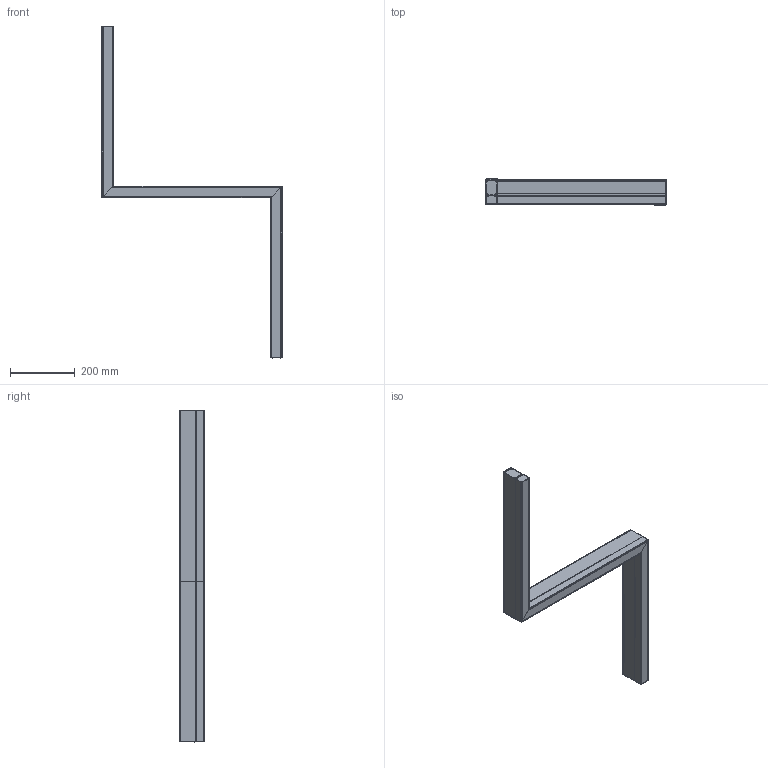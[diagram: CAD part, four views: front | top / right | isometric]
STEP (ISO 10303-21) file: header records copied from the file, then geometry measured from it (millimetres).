
FILE_DESCRIPTION(('STEP AP203'), '1');
FILE_NAME('Ìàòèê Òâèñò 30Âò', '', ('UNSPECIFIED'), ('UNSPECIFIED'), 'ASCON STEP Converter 1.6', 'ASCON Math Kernel', '');
FILE_SCHEMA(('CONFIG_CONTROL_DESIGN'));
Length unit declared in the file: millimetre
Assembly tree (7 placements, depth 3):
  (unnamed)
    (unnamed)
      (unnamed)  x2
    (unnamed)
    (unnamed)
      (unnamed)  x2
Bounding box: 556 x 80 x 1025.3 mm (x, y, z)
Volume: 625687.4 mm3; surface area: 982729.6 mm2
Topology: 13 solids, 13 shells, 675 faces, 1915 edges, 1280 vertices
Faces by surface type: plane 322, cylinder 315, bspline 16, cone 12, torus 10
Full cylindrical faces by diameter (mm): 2.9 x4, 6.3 x4, 8 x1, 10 x2, 14 x2
Entity records: 20223 total; most frequent: CARTESIAN_POINT 4826, ORIENTED_EDGE 3422, DIRECTION 2778, EDGE_CURVE 1711, VERTEX_POINT 1149, LINE 1068, VECTOR 1068, AXIS2_PLACEMENT_3D 855
